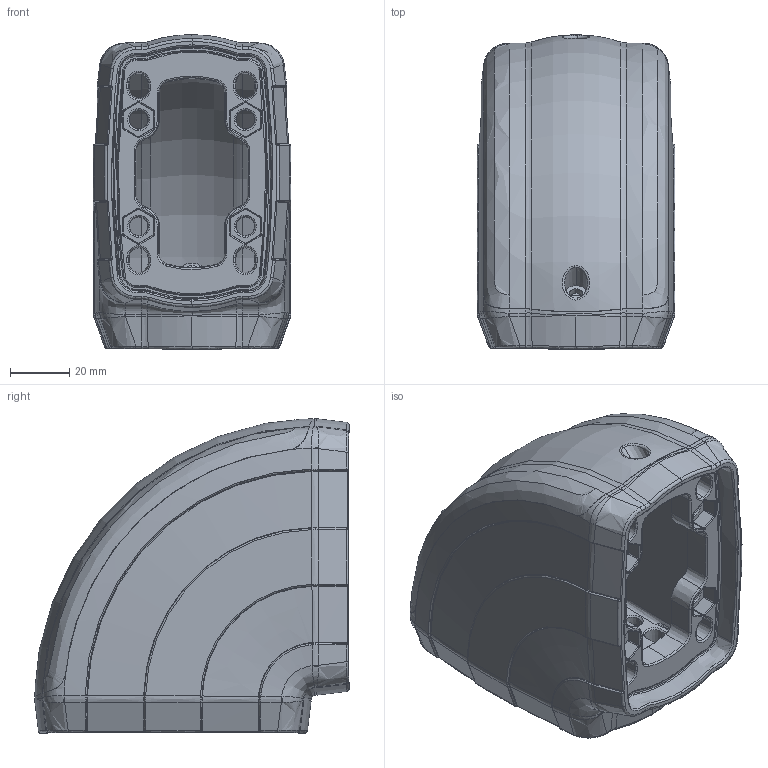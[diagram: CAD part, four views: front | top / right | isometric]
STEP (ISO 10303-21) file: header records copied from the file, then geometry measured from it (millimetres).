
FILE_DESCRIPTION (( 'STEP AP203' ), '1' );
FILE_NAME ('ETR060330.STEP', '2017-06-22T11:56:07', ( '' ), ( '' ), 'SwSTEP 2.0', 'SolidWorks 2017', '' );
FILE_SCHEMA (( 'CONFIG_CONTROL_DESIGN' ));
Length unit declared in the file: millimetre
Products named in the file (1): ETR060330
Bounding box: 66.81 x 106.32 x 106.32 mm (x, y, z)
Volume: 171941.3 mm3; surface area: 69571.5 mm2
Topology: 2 solids, 2 shells, 1338 faces, 3327 edges, 1934 vertices
Faces by surface type: bspline 829, cylinder 187, cone 167, plane 142, torus 13
Entity records: 139443 total; most frequent: CARTESIAN_POINT 114947, ORIENTED_EDGE 6508, EDGE_CURVE 3254, DIRECTION 3040, VERTEX_POINT 1934, B_SPLINE_CURVE_WITH_KNOTS 1589, EDGE_LOOP 1392, ADVANCED_FACE 1338
